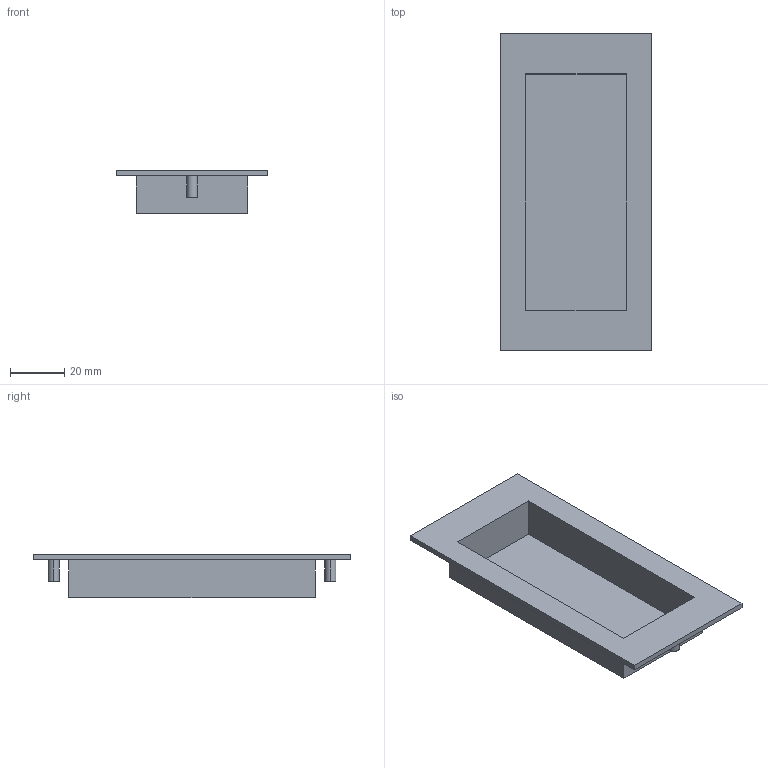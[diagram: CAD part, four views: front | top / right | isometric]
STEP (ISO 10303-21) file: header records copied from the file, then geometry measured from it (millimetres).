
FILE_DESCRIPTION (( 'STEP AP203' ), '1' );
FILE_NAME ('FHD4090.STEP', '2024-02-19T12:38:49', ( '' ), ( '' ), 'SwSTEP 2.0', 'SolidWorks 2022', '' );
FILE_SCHEMA (( 'CONFIG_CONTROL_DESIGN' ));
Length unit declared in the file: millimetre
Products named in the file (1): FHD4090
Bounding box: 56 x 117 x 16 mm (x, y, z)
Volume: 17254.1 mm3; surface area: 21413.1 mm2
Topology: 1 solids, 1 shells, 22 faces, 48 edges, 32 vertices
Faces by surface type: plane 18, cylinder 4
Entity records: 677 total; most frequent: CARTESIAN_POINT 103, DIRECTION 102, ORIENTED_EDGE 96, EDGE_CURVE 48, LINE 40, VECTOR 40, VERTEX_POINT 32, AXIS2_PLACEMENT_3D 31
